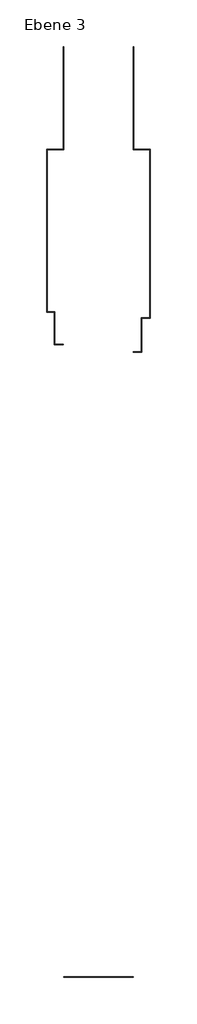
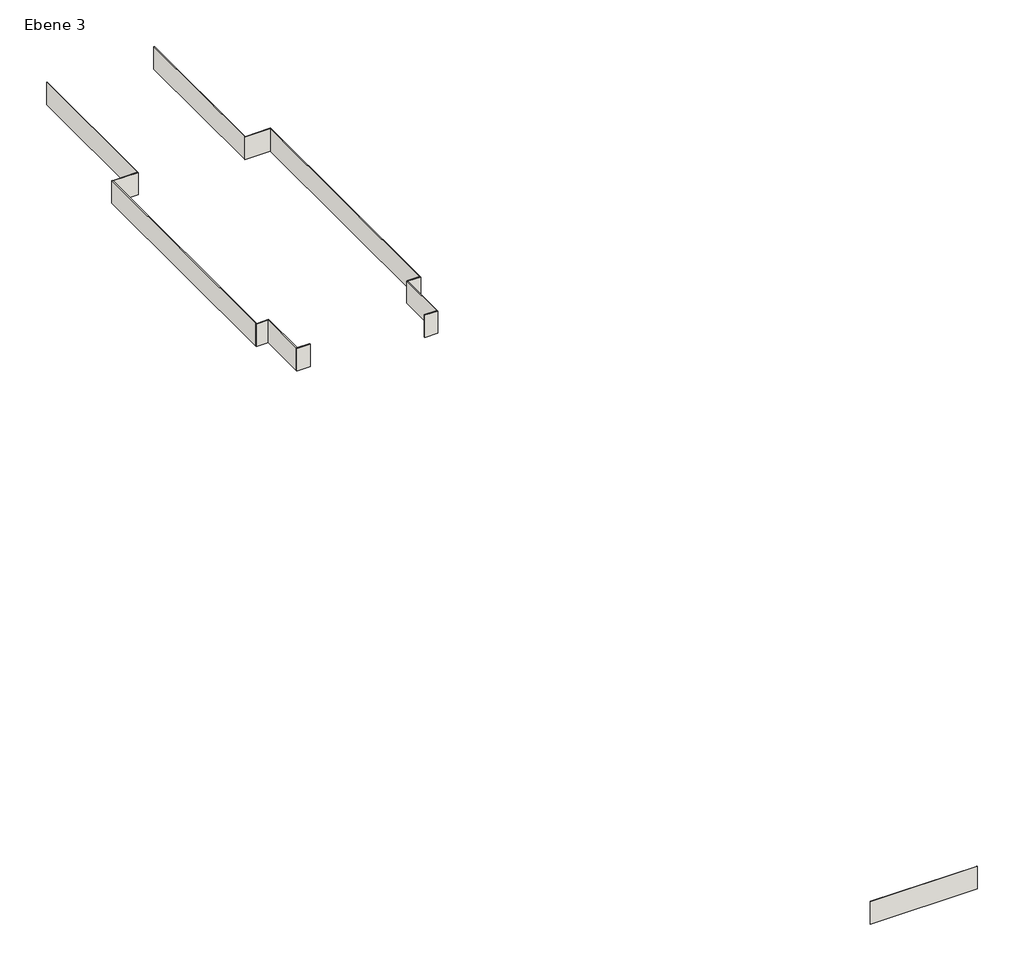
# One storey: 13 walls.
"""IFC4 building model written with IfcOpenShell, lengths in millimetres."""

import ifcopenshell
import ifcopenshell.guid

model = None  # the IFC model being written
_history = None  # IfcOwnerHistory: only IFC2X3 demands one
_inside = {}  # id of a spatial element -> (the spatial element, [elements in it])
_under = {}  # id of a project, library or spatial element -> (it, [spatial elements below it])
_declared = {}  # id of a project -> (the project, [libraries it declares])
_typed = {}  # id of a type object -> (the type object, [elements of that type])
_made_of = {}  # id of a material, layer set ... -> (it, [elements and type objects made of it])


def new_model(schema):
    """Start an empty IFC model of exactly this schema.

    Asked for "IFC4X3", IfcOpenShell would pick the latest addendum, in which some entities
    have other attributes; the version numbers below select the first issue.
    IFC2X3 requires an IfcOwnerHistory on every rooted entity: one is made here for all.
    """
    global model, _history
    if schema == "IFC4X3":
        model = ifcopenshell.file(schema_version=(4, 3, 0, 0))
    else:
        model = ifcopenshell.file(schema=schema)
    _inside.clear()
    _under.clear()
    _declared.clear()
    _typed.clear()
    _made_of.clear()
    _history = None
    if model.schema == "IFC2X3":
        org = make("IfcOrganization", Name="unknown")
        user = make(
            "IfcPersonAndOrganization",
            ThePerson=make("IfcPerson", FamilyName="unknown"),
            TheOrganization=org,
        )
        app = make(
            "IfcApplication",
            ApplicationDeveloper=org,
            Version="unknown",
            ApplicationFullName="unknown",
            ApplicationIdentifier="unknown",
        )
        _history = make(
            "IfcOwnerHistory",
            OwningUser=user,
            OwningApplication=app,
            ChangeAction="ADDED",
            CreationDate=0,
        )
    return model


def make(cls, **values):
    """One entity of the class cls with the attributes given. An attribute that is None is left unset."""
    return model.create_entity(
        cls, **{name: value for name, value in values.items() if value is not None}
    )


def rooted(cls, **values):
    """An entity with a GlobalId (a new one), such as an element, a storey or a relation."""
    return make(cls, GlobalId=ifcopenshell.guid.new(), OwnerHistory=_history, **values)


def si_unit(unit_type, name, prefix=None):
    """IfcSIUnit, for example si_unit("LENGTHUNIT", "METRE", prefix="MILLI")."""
    return make("IfcSIUnit", UnitType=unit_type, Prefix=prefix, Name=name)


def assignment(units):
    """IfcUnitAssignment: the units of a project."""
    return None if units is None else make("IfcUnitAssignment", Units=units)


def point(xyz):
    """IfcCartesianPoint."""
    return None if xyz is None else make("IfcCartesianPoint", Coordinates=xyz)


def direction(xyz):
    """IfcDirection."""
    return None if xyz is None else make("IfcDirection", DirectionRatios=xyz)


def frame(location, z_axis=None, x_axis=None):
    """IfcAxis2Placement3D, a coordinate frame: its origin and axes. An axis left out is left unset."""
    return make(
        "IfcAxis2Placement3D",
        Location=point(location),
        Axis=direction(z_axis),
        RefDirection=direction(x_axis),
    )


def origin():
    """The frame at (0, 0, 0) with its axes left unset."""
    return frame((0.0, 0.0, 0.0))


def place(relative_to, where):
    """IfcLocalPlacement: puts the frame where relative to a parent placement (None: the world)."""
    return make(
        "IfcLocalPlacement", PlacementRelTo=relative_to, RelativePlacement=where
    )


def context(
    kind, dimensions, precision=None, world=None, true_north=None, identifier=None
):
    """IfcGeometricRepresentationContext, for example the 3D "Model" context."""
    return make(
        "IfcGeometricRepresentationContext",
        ContextIdentifier=identifier,
        ContextType=kind,
        CoordinateSpaceDimension=dimensions,
        Precision=precision,
        WorldCoordinateSystem=world,
        TrueNorth=true_north,
    )


def project(units=None, contexts=None):
    """IfcProject with its units and contexts."""
    return rooted(
        "IfcProject",
        Name="project",
        RepresentationContexts=contexts,
        UnitsInContext=assignment(units),
    )


def spatial(cls, under=None, at=None, **own):
    """A site, building, storey or space (cls), placed at a placement, below another one or the project."""
    s = rooted(cls, ObjectPlacement=at, **own)
    if under is not None:
        _under.setdefault(under.id(), (under, []))[1].append(s)
    return s


def polyline(points):
    """IfcPolyline through the points."""
    return make("IfcPolyline", Points=[point(p) for p in points])


def outline(outer, holes=None, kind="AREA"):
    """IfcArbitraryClosedProfileDef: a profile drawn as a closed curve; with holes, ...WithVoids."""
    if holes is None:
        return make("IfcArbitraryClosedProfileDef", ProfileType=kind, OuterCurve=outer)
    return make(
        "IfcArbitraryProfileDefWithVoids",
        ProfileType=kind,
        OuterCurve=outer,
        InnerCurves=holes,
    )


def extrude(swept, where, along, depth):
    """IfcExtrudedAreaSolid: the profile swept, set in the frame where, extruded along a direction by depth."""
    return make(
        "IfcExtrudedAreaSolid",
        SweptArea=swept,
        Position=where,
        ExtrudedDirection=direction(along),
        Depth=depth,
    )


def faces_of(points, faces, orient=None, outer=None):
    """IfcFace entities. A face is a list of loops; a loop is a list of indices into points, from 0.

    orient and outer hold one flag for each loop. By default every Orientation is true, the
    first loop of a face is its IfcFaceOuterBound and the others are IfcFaceBound.
    """
    made = []
    for i, loops in enumerate(faces):
        bounds = []
        for j, loop in enumerate(loops):
            is_outer = j == 0 if outer is None else outer[i][j]
            bounds.append(
                make(
                    "IfcFaceOuterBound" if is_outer else "IfcFaceBound",
                    Bound=make("IfcPolyLoop", Polygon=[points[k] for k in loop]),
                    Orientation=True if orient is None else orient[i][j],
                )
            )
        made.append(make("IfcFace", Bounds=bounds))
    return made


def faceted_brep(points, faces, orient=None, outer=None, voids=None):
    """IfcFacetedBrep: a solid bounded by flat faces; with voids (closed shells), ...WithVoids."""
    shared = [point(p) for p in points]
    hull = make("IfcClosedShell", CfsFaces=faces_of(shared, faces, orient, outer))
    if voids is None:
        return make("IfcFacetedBrep", Outer=hull)
    return make(
        "IfcFacetedBrepWithVoids",
        Outer=hull,
        Voids=[
            make(cls, CfsFaces=faces_of(shared, fs, o, b)) for cls, fs, o, b in voids
        ],
    )


def shape(context_of_items, identifier, shape_type, items):
    """IfcShapeRepresentation: the items that make up one representation, for example the "Body"."""
    return make(
        "IfcShapeRepresentation",
        ContextOfItems=context_of_items,
        RepresentationIdentifier=identifier,
        RepresentationType=shape_type,
        Items=items,
    )


def made_of(thing, what):
    """Note that an element or type object is made of a material, layer set ...; save() writes the relation."""
    if what is not None:
        _made_of.setdefault(what.id(), (what, []))[1].append(thing)
    return thing


def element(
    cls,
    number,
    at=None,
    inside=None,
    cuts=None,
    type_object=None,
    material=None,
    context=None,
    identifier="Body",
    shape_type=None,
    held_by="IfcProductDefinitionShape",
    body=None,
    shapes=None,
    **own,
):
    """One element of the class cls, such as IfcWall. Its Tag is "e" and its number.

    at: its placement. inside: the storey or other place that contains it. cuts: it is an
    opening in that element (IfcRelVoidsElement). A single representation is given by context,
    identifier, shape_type and body (its items); several are given by shapes. held_by: the class
    of the entity that holds the representations. save() writes the other relations.
    """
    e = rooted(cls, Tag="e%d" % number, ObjectPlacement=at, **own)
    if body is not None:
        shapes = [shape(context, identifier, shape_type, body)]
    if shapes is not None:
        e.Representation = make(held_by, Representations=shapes)
    if inside is not None:
        _inside.setdefault(inside.id(), (inside, []))[1].append(e)
    if cuts is not None:
        rooted(
            "IfcRelVoidsElement", RelatingBuildingElement=cuts, RelatedOpeningElement=e
        )
    if type_object is not None:
        _typed.setdefault(type_object.id(), (type_object, []))[1].append(e)
    return made_of(e, material)


def aggregate(whole, parts):
    """IfcRelAggregates: a whole, such as a stair, and the parts it consists of."""
    return rooted("IfcRelAggregates", RelatingObject=whole, RelatedObjects=parts)


def save(model, path):
    """Write the relations noted so far, then the file.

    IfcRelAggregates (storeys below a building ...), IfcRelContainedInSpatialStructure (elements
    in a storey), IfcRelDefinesByType, IfcRelAssociatesMaterial and IfcRelDeclares: one each for
    every whole, place, type object, material and project.
    """
    for whole, parts in _under.values():
        aggregate(whole, parts)
    for where, things in _inside.values():
        rooted(
            "IfcRelContainedInSpatialStructure",
            RelatedElements=things,
            RelatingStructure=where,
        )
    for kind, things in _typed.values():
        rooted("IfcRelDefinesByType", RelatedObjects=things, RelatingType=kind)
    for what, things in _made_of.values():
        rooted("IfcRelAssociatesMaterial", RelatedObjects=things, RelatingMaterial=what)
    for by, libraries in _declared.values():
        rooted("IfcRelDeclares", RelatingContext=by, RelatedDefinitions=libraries)
    model.write(path)


model = new_model("IFC4")

# Units and contexts
model_context = context("Model", 3, world=origin())
ifc_project = project(units=[si_unit("LENGTHUNIT", "METRE", prefix="MILLI")], contexts=[model_context])

# Site, building, storey
site = spatial("IfcSite", under=ifc_project)
building = spatial("IfcBuilding", under=site)
storey = spatial("IfcBuildingStorey", under=building, Name="Ebene 3", Elevation=550.0)

# Walls
placement = place(None, origin())
element("IfcWall", 1, ObjectType="Bauzaun", at=placement, inside=storey, context=model_context, shape_type="Brep", body=[
    faceted_brep([(-112969.2997702, 162482.8338922, 480.0), (-114569.2997702, 162482.8338922, 480.0), (-114669.2997702, 162482.8338922, 480.0), (-114669.2997702, 162482.8338922, 3480.0), (-114569.2997702, 162482.8338922, 3480.0), (-112969.2997702, 162482.8338922, 3480.0), (-112969.2997702, 162482.8338922, 484.8233252), (-112969.2997702, 162382.8338922, 480.0), (-112969.2997702, 162382.8338922, 3480.0), (-114669.2997702, 162382.8338922, 3480.0), (-114669.2997702, 162382.8338922, 480.0)], [[[0, 1, 2, 3, 4, 5, 6]], [[7, 8, 9, 10]], [[2, 1, 0, 7, 10]], [[5, 4, 3, 9, 8]], [[0, 6, 5, 8, 7]], [[3, 2, 10, 9]]]),
])
element("IfcWall", 2, ObjectType="Bauzaun", at=placement, inside=storey, context=model_context, shape_type="Brep", body=[
    faceted_brep([(-114569.2997702, 162482.8338922, 480.0), (-114569.2997702, 168782.8338922, 480.0), (-114569.2997702, 168782.8338922, 3480.0), (-114569.2997702, 162482.8338922, 3480.0), (-114669.2997702, 162482.8338922, 480.0), (-114669.2997702, 162482.8338922, 3480.0), (-114669.2997702, 168682.8338922, 3480.0), (-114669.2997702, 168782.8338922, 3480.0), (-114669.2997702, 168782.8338922, 480.0), (-114669.2997702, 168682.8338922, 480.0)], [[[0, 1, 2, 3]], [[4, 5, 6, 7, 8, 9]], [[1, 0, 4, 9, 8]], [[3, 2, 7, 6, 5]], [[0, 3, 5, 4]], [[2, 1, 8, 7]]]),
])
element("IfcWall", 3, ObjectType="Bauzaun", at=placement, inside=storey, context=model_context, shape_type="Brep", body=[
    faceted_brep([(-114669.2997702, 168782.8338922, 480.0), (-116089.2997702, 168782.8338922, 480.0), (-116189.2997702, 168782.8338922, 480.0), (-116189.2997702, 168782.8338922, 3480.0), (-116089.2997702, 168782.8338922, 3480.0), (-114669.2997702, 168782.8338922, 3480.0), (-114669.2997702, 168682.8338922, 480.0), (-114669.2997702, 168682.8338922, 3480.0), (-116189.2997702, 168682.8338922, 3480.0), (-116189.2997702, 168682.8338922, 480.0)], [[[0, 1, 2, 3, 4, 5]], [[6, 7, 8, 9]], [[2, 1, 0, 6, 9]], [[5, 4, 3, 8, 7]], [[0, 5, 7, 6]], [[3, 2, 9, 8]]]),
])
element("IfcWall", 4, ObjectType="Bauzaun", at=placement, inside=storey, context=model_context, shape_type="Brep", body=[
    faceted_brep([(-116089.2997702, 168782.8338922, 480.0), (-116089.2997702, 200382.8338922, 480.0), (-116089.2997702, 200482.8338922, 480.0), (-116089.2997702, 200482.8338922, 3480.0), (-116089.2997702, 200382.8338922, 3480.0), (-116089.2997702, 168782.8338922, 3480.0), (-116189.2997702, 168782.8338922, 480.0), (-116189.2997702, 168782.8338922, 3480.0), (-116189.2997702, 200482.8338922, 3480.0), (-116189.2997702, 200482.8338922, 480.0)], [[[0, 1, 2, 3, 4, 5]], [[6, 7, 8, 9]], [[2, 1, 0, 6, 9]], [[5, 4, 3, 8, 7]], [[0, 5, 7, 6]], [[3, 2, 9, 8]]]),
])
element("IfcWall", 5, ObjectType="Bauzaun", at=placement, inside=storey, context=model_context, shape_type="Brep", body=[
    faceted_brep([(-116089.2997702, 200382.8338922, 480.0), (-112869.2997702, 200382.8338922, 480.0), (-112869.2997702, 200382.8338922, 3480.0), (-116089.2997702, 200382.8338922, 3480.0), (-116089.2997702, 200482.8338922, 480.0), (-116089.2997702, 200482.8338922, 3480.0), (-112969.2997702, 200482.8338922, 3480.0), (-112869.2997702, 200482.8338922, 3480.0), (-112869.2997702, 200482.8338922, 480.0), (-112969.2997702, 200482.8338922, 480.0)], [[[0, 1, 2, 3]], [[4, 5, 6, 7, 8, 9]], [[1, 0, 4, 9, 8]], [[3, 2, 7, 6, 5]], [[0, 3, 5, 4]], [[2, 1, 8, 7]]]),
])
element("IfcWall", 6, ObjectType="Bauzaun", at=placement, inside=storey, context=model_context, shape_type="SweptSolid", body=[
    extrude(outline(polyline([(-112869.2997702, 220432.8338922), (-112869.2997702, 200482.8338922), (-112969.2997702, 200482.8338922), (-112969.2997702, 220432.8338922), (-112869.2997702, 220432.8338922)])), frame((0.0, 0.0, 480.0), z_axis=(0.0, 0.0, 1.0), x_axis=(1.0, 0.0, 0.0)), (0.0, 0.0, 1.0), 3000.0),
])
element("IfcWall", 7, ObjectType="Bauzaun", at=placement, inside=storey, context=model_context, shape_type="Brep", body=[
    faceted_brep([(-99269.2997702, 160882.8338922, 480.0), (-97609.2997702, 160882.8338922, 480.0), (-97609.2997702, 160882.8338922, 3480.0), (-99269.2997702, 160882.8338922, 3480.0), (-99269.2997702, 160882.8338922, 484.8233252), (-99269.2997702, 160982.8338922, 480.0), (-99269.2997702, 160982.8338922, 3480.0), (-97709.2997702, 160982.8338922, 3480.0), (-97609.2997702, 160982.8338922, 3480.0), (-97609.2997702, 160982.8338922, 480.0), (-97709.2997702, 160982.8338922, 480.0)], [[[0, 1, 2, 3, 4]], [[5, 6, 7, 8, 9, 10]], [[1, 0, 5, 10, 9]], [[3, 2, 8, 7, 6]], [[2, 1, 9, 8]], [[0, 4, 3, 6, 5]]]),
])
element("IfcWall", 8, ObjectType="Bauzaun", at=placement, inside=storey, context=model_context, shape_type="Brep", body=[
    faceted_brep([(-97609.2997702, 160982.8338922, 480.0), (-97609.2997702, 167482.8338922, 480.0), (-97609.2997702, 167582.8338922, 480.0), (-97609.2997702, 167582.8338922, 3480.0), (-97609.2997702, 167482.8338922, 3480.0), (-97609.2997702, 160982.8338922, 3480.0), (-97709.2997702, 160982.8338922, 480.0), (-97709.2997702, 160982.8338922, 3480.0), (-97709.2997702, 167582.8338922, 3480.0), (-97709.2997702, 167582.8338922, 480.0)], [[[0, 1, 2, 3, 4, 5]], [[6, 7, 8, 9]], [[2, 1, 0, 6, 9]], [[5, 4, 3, 8, 7]], [[0, 5, 7, 6]], [[3, 2, 9, 8]]]),
])
element("IfcWall", 9, ObjectType="Bauzaun", at=placement, inside=storey, context=model_context, shape_type="Brep", body=[
    faceted_brep([(-97609.2997702, 167482.8338922, 480.0), (-95999.2997702, 167482.8338922, 480.0), (-95999.2997702, 167482.8338922, 3480.0), (-97609.2997702, 167482.8338922, 3480.0), (-97609.2997702, 167582.8338922, 480.0), (-97609.2997702, 167582.8338922, 3480.0), (-96099.2997702, 167582.8338922, 3480.0), (-95999.2997702, 167582.8338922, 3480.0), (-95999.2997702, 167582.8338922, 480.0), (-96099.2997702, 167582.8338922, 480.0)], [[[0, 1, 2, 3]], [[4, 5, 6, 7, 8, 9]], [[1, 0, 4, 9, 8]], [[3, 2, 7, 6, 5]], [[0, 3, 5, 4]], [[2, 1, 8, 7]]]),
])
element("IfcWall", 10, ObjectType="Bauzaun", at=placement, inside=storey, context=model_context, shape_type="Brep", body=[
    faceted_brep([(-95999.2997702, 167582.8338922, 480.0), (-95999.2997702, 200482.8338922, 480.0), (-95999.2997702, 200482.8338922, 3480.0), (-95999.2997702, 167582.8338922, 3480.0), (-96099.2997702, 167582.8338922, 480.0), (-96099.2997702, 167582.8338922, 3480.0), (-96099.2997702, 200382.8338922, 3480.0), (-96099.2997702, 200482.8338922, 3480.0), (-96099.2997702, 200482.8338922, 480.0), (-96099.2997702, 200382.8338922, 480.0)], [[[0, 1, 2, 3]], [[4, 5, 6, 7, 8, 9]], [[1, 0, 4, 9, 8]], [[3, 2, 7, 6, 5]], [[0, 3, 5, 4]], [[2, 1, 8, 7]]]),
])
element("IfcWall", 11, ObjectType="Bauzaun", at=placement, inside=storey, context=model_context, shape_type="Brep", body=[
    faceted_brep([(-96099.2997702, 200482.8338922, 480.0), (-99219.2997702, 200482.8338922, 480.0), (-99319.2997702, 200482.8338922, 480.0), (-99319.2997702, 200482.8338922, 3480.0), (-99219.2997702, 200482.8338922, 3480.0), (-96099.2997702, 200482.8338922, 3480.0), (-96099.2997702, 200382.8338922, 480.0), (-96099.2997702, 200382.8338922, 3480.0), (-99319.2997702, 200382.8338922, 3480.0), (-99319.2997702, 200382.8338922, 480.0)], [[[0, 1, 2, 3, 4, 5]], [[6, 7, 8, 9]], [[2, 1, 0, 6, 9]], [[5, 4, 3, 8, 7]], [[0, 5, 7, 6]], [[3, 2, 9, 8]]]),
])
element("IfcWall", 12, ObjectType="Bauzaun", at=placement, inside=storey, context=model_context, shape_type="SweptSolid", body=[
    extrude(outline(polyline([(-99219.2997702, 220432.8338922), (-99219.2997702, 200482.8338922), (-99319.2997702, 200482.8338922), (-99319.2997702, 220432.8338922), (-99219.2997702, 220432.8338922)])), frame((0.0, 0.0, 480.0), z_axis=(0.0, 0.0, 1.0), x_axis=(1.0, 0.0, 0.0)), (0.0, 0.0, 1.0), 3000.0),
])
element("IfcWall", 13, ObjectType="Bauzaun", at=placement, inside=storey, context=model_context, shape_type="Brep", body=[
    faceted_brep([(-112869.2997702, 39182.8338922, 140.0), (-99269.2997702, 39182.8338922, 140.0), (-99269.2997702, 39182.8338922, 3135.9983274), (-99269.2997702, 39182.8338922, 3140.0), (-112869.2997702, 39182.8338922, 3140.0), (-112869.2997702, 39182.8338922, 3135.9983274), (-112869.2997702, 39282.8338922, 140.0), (-112869.2997702, 39282.8338922, 3140.0), (-99269.2997702, 39282.8338922, 3140.0), (-99269.2997702, 39282.8338922, 140.0)], [[[0, 1, 2, 3, 4, 5]], [[6, 7, 8, 9]], [[1, 0, 6, 9]], [[4, 3, 8, 7]], [[0, 5, 4, 7, 6]], [[3, 2, 1, 9, 8]]]),
])

save(model, "model.ifc")
